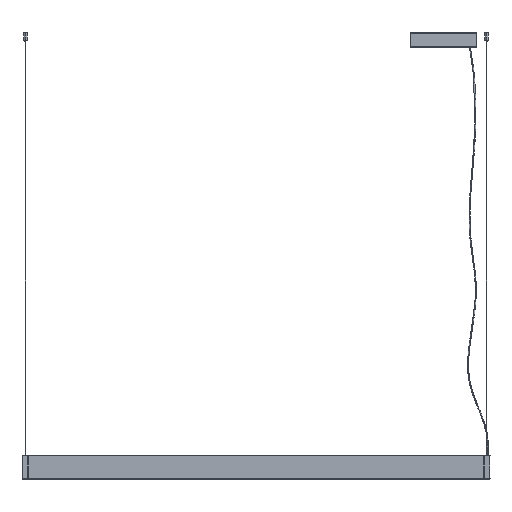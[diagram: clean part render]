
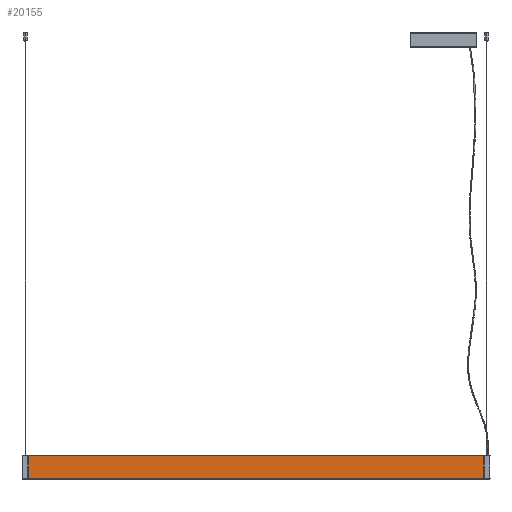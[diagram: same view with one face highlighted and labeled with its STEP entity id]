
A CAD part, top view. The second image highlights one B-rep face of the part: STEP entity #20155.
In plain terms, the highlighted planar face has unit normal (0, 0, 1).
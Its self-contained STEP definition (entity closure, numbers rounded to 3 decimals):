
#564 = CARTESIAN_POINT ( 'NONE',  ( 20., 88., 112. ) ) ;
#1036 = CARTESIAN_POINT ( 'NONE',  ( 1730., 90., 112. ) ) ;
#1239 = DIRECTION ( 'NONE',  ( 0., 0., -1. ) ) ;
#2097 = LINE ( 'NONE', #564, #7006 ) ;
#2459 = DIRECTION ( 'NONE',  ( -1., 0., 0. ) ) ;
#3287 = EDGE_LOOP ( 'NONE', ( #21584, #16077, #4829, #19606 ) ) ;
#4402 = DIRECTION ( 'NONE',  ( 1., 0., 0. ) ) ;
#4477 = CARTESIAN_POINT ( 'NONE',  ( 20., 2., 112. ) ) ;
#4617 = VERTEX_POINT ( 'NONE', #6996 ) ;
#4829 = ORIENTED_EDGE ( 'NONE', *, *, #11113, .F. ) ;
#4849 = PLANE ( 'NONE',  #16891 ) ;
#5943 = EDGE_CURVE ( 'NONE', #14515, #19473, #7292, .T. ) ;
#6693 = VECTOR ( 'NONE', #15792, 1000. ) ;
#6996 = CARTESIAN_POINT ( 'NONE',  ( 20., 2., 112. ) ) ;
#7006 = VECTOR ( 'NONE', #2459, 1000. ) ;
#7292 = LINE ( 'NONE', #1036, #6693 ) ;
#8590 = CARTESIAN_POINT ( 'NONE',  ( 1730., 2., 112. ) ) ;
#8860 = CARTESIAN_POINT ( 'NONE',  ( 1730., 88., 112. ) ) ;
#9195 = LINE ( 'NONE', #23944, #18416 ) ;
#9535 = EDGE_CURVE ( 'NONE', #19473, #12124, #2097, .T. ) ;
#11113 = EDGE_CURVE ( 'NONE', #4617, #12124, #9195, .T. ) ;
#12124 = VERTEX_POINT ( 'NONE', #22983 ) ;
#12302 = CARTESIAN_POINT ( 'NONE',  ( 20., 90., 112. ) ) ;
#12753 = DIRECTION ( 'NONE',  ( 0., 1., 0. ) ) ;
#14149 = DIRECTION ( 'NONE',  ( 0., -1., 0. ) ) ;
#14326 = EDGE_CURVE ( 'NONE', #4617, #14515, #19544, .T. ) ;
#14515 = VERTEX_POINT ( 'NONE', #8590 ) ;
#15792 = DIRECTION ( 'NONE',  ( 0., 1., 0. ) ) ;
#16077 = ORIENTED_EDGE ( 'NONE', *, *, #9535, .T. ) ;
#16303 = FACE_OUTER_BOUND ( 'NONE', #3287, .T. ) ;
#16891 = AXIS2_PLACEMENT_3D ( 'NONE', #12302, #1239, #14149 ) ;
#18394 = VECTOR ( 'NONE', #4402, 1000. ) ;
#18416 = VECTOR ( 'NONE', #12753, 1000. ) ;
#19473 = VERTEX_POINT ( 'NONE', #8860 ) ;
#19544 = LINE ( 'NONE', #4477, #18394 ) ;
#19606 = ORIENTED_EDGE ( 'NONE', *, *, #14326, .T. ) ;
#20155 = ADVANCED_FACE ( 'NONE', ( #16303 ), #4849, .F. ) ;
#21584 = ORIENTED_EDGE ( 'NONE', *, *, #5943, .T. ) ;
#22983 = CARTESIAN_POINT ( 'NONE',  ( 20., 88., 112. ) ) ;
#23944 = CARTESIAN_POINT ( 'NONE',  ( 20., 90., 112. ) ) ;
